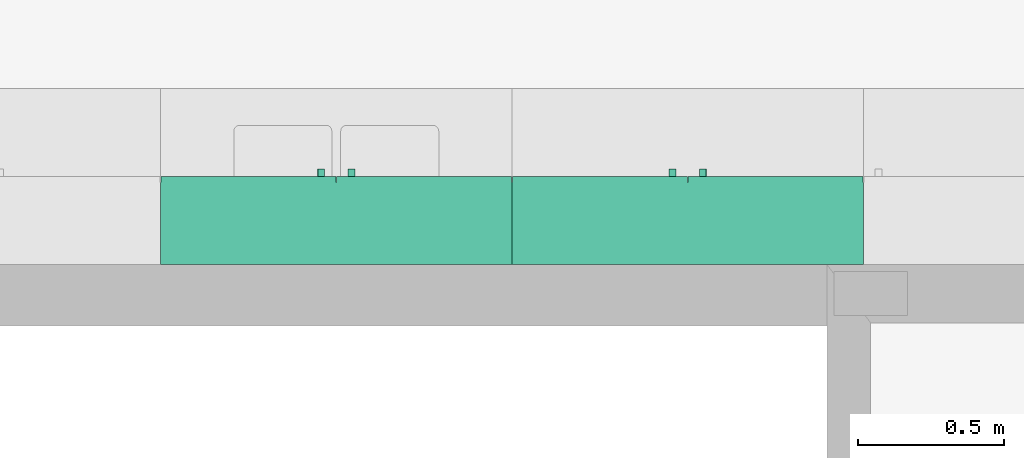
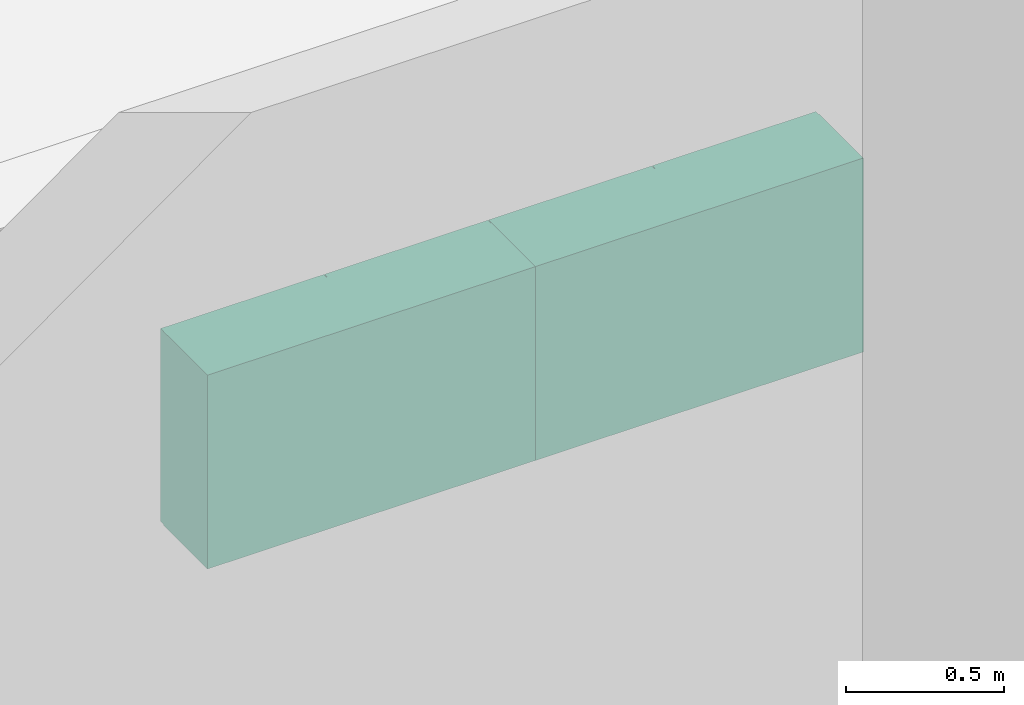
# One storey, part 14 of 26: 2 distribution elements.
"""IFC2X3 building model written with IfcOpenShell, lengths in millimetres."""

import ifcopenshell
import ifcopenshell.guid

model = None  # the IFC model being written
_history = None  # IfcOwnerHistory: only IFC2X3 demands one
_inside = {}  # id of a spatial element -> (the spatial element, [elements in it])
_under = {}  # id of a project, library or spatial element -> (it, [spatial elements below it])
_declared = {}  # id of a project -> (the project, [libraries it declares])
_typed = {}  # id of a type object -> (the type object, [elements of that type])
_made_of = {}  # id of a material, layer set ... -> (it, [elements and type objects made of it])


def new_model(schema):
    """Start an empty IFC model of exactly this schema.

    Asked for "IFC4X3", IfcOpenShell would pick the latest addendum, in which some entities
    have other attributes; the version numbers below select the first issue.
    IFC2X3 requires an IfcOwnerHistory on every rooted entity: one is made here for all.
    """
    global model, _history
    if schema == "IFC4X3":
        model = ifcopenshell.file(schema_version=(4, 3, 0, 0))
    else:
        model = ifcopenshell.file(schema=schema)
    _inside.clear()
    _under.clear()
    _declared.clear()
    _typed.clear()
    _made_of.clear()
    _history = None
    if model.schema == "IFC2X3":
        org = make("IfcOrganization", Name="unknown")
        user = make(
            "IfcPersonAndOrganization",
            ThePerson=make("IfcPerson", FamilyName="unknown"),
            TheOrganization=org,
        )
        app = make(
            "IfcApplication",
            ApplicationDeveloper=org,
            Version="unknown",
            ApplicationFullName="unknown",
            ApplicationIdentifier="unknown",
        )
        _history = make(
            "IfcOwnerHistory",
            OwningUser=user,
            OwningApplication=app,
            ChangeAction="ADDED",
            CreationDate=0,
        )
    return model


def make(cls, **values):
    """One entity of the class cls with the attributes given. An attribute that is None is left unset."""
    return model.create_entity(
        cls, **{name: value for name, value in values.items() if value is not None}
    )


def entity(cls, *values):
    """Any entity or typed value of the class cls, its attributes in the order of the schema. None: left unset."""
    e = model.create_entity(cls)
    for i, value in enumerate(values):
        if value is not None:
            e[i] = value
    return e


def rooted(cls, **values):
    """An entity with a GlobalId (a new one), such as an element, a storey or a relation."""
    return make(cls, GlobalId=ifcopenshell.guid.new(), OwnerHistory=_history, **values)


def si_unit(unit_type, name, prefix=None):
    """IfcSIUnit, for example si_unit("LENGTHUNIT", "METRE", prefix="MILLI")."""
    return make("IfcSIUnit", UnitType=unit_type, Prefix=prefix, Name=name)


def converted_unit(unit_type, name, factor, base, dimensions=None, offset=None):
    """IfcConversionBasedUnit, such as the inch: factor (a typed value) times the base unit."""
    return make(
        "IfcConversionBasedUnit"
        if offset is None
        else "IfcConversionBasedUnitWithOffset",
        ConversionOffset=offset,
        Dimensions=None
        if dimensions is None
        else entity("IfcDimensionalExponents", *dimensions),
        UnitType=unit_type,
        Name=name,
        ConversionFactor=make(
            "IfcMeasureWithUnit", ValueComponent=factor, UnitComponent=base
        ),
    )


def money_unit(currency):
    """IfcMonetaryUnit."""
    return make("IfcMonetaryUnit", Currency=currency)


def assignment(units):
    """IfcUnitAssignment: the units of a project."""
    return None if units is None else make("IfcUnitAssignment", Units=units)


def point(xyz):
    """IfcCartesianPoint."""
    return None if xyz is None else make("IfcCartesianPoint", Coordinates=xyz)


def direction(xyz):
    """IfcDirection."""
    return None if xyz is None else make("IfcDirection", DirectionRatios=xyz)


def frame(location, z_axis=None, x_axis=None):
    """IfcAxis2Placement3D, a coordinate frame: its origin and axes. An axis left out is left unset."""
    return make(
        "IfcAxis2Placement3D",
        Location=point(location),
        Axis=direction(z_axis),
        RefDirection=direction(x_axis),
    )


def origin_with_axes():
    """The frame at (0, 0, 0) with the z axis (0, 0, 1) and the x axis (1, 0, 0) written out."""
    return frame((0.0, 0.0, 0.0), z_axis=(0.0, 0.0, 1.0), x_axis=(1.0, 0.0, 0.0))


def place(relative_to, where):
    """IfcLocalPlacement: puts the frame where relative to a parent placement (None: the world)."""
    return make(
        "IfcLocalPlacement", PlacementRelTo=relative_to, RelativePlacement=where
    )


def context(
    kind, dimensions, precision=None, world=None, true_north=None, identifier=None
):
    """IfcGeometricRepresentationContext, for example the 3D "Model" context."""
    return make(
        "IfcGeometricRepresentationContext",
        ContextIdentifier=identifier,
        ContextType=kind,
        CoordinateSpaceDimension=dimensions,
        Precision=precision,
        WorldCoordinateSystem=world,
        TrueNorth=true_north,
    )


def subcontext(parent, identifier, kind, view, scale=None):
    """IfcGeometricRepresentationSubContext, for example "Body" below "Model"."""
    return make(
        "IfcGeometricRepresentationSubContext",
        ContextIdentifier=identifier,
        ContextType=kind,
        ParentContext=parent,
        TargetScale=scale,
        TargetView=view,
    )


def project(units=None, contexts=None):
    """IfcProject with its units and contexts."""
    return rooted(
        "IfcProject",
        Name="project",
        RepresentationContexts=contexts,
        UnitsInContext=assignment(units),
    )


def spatial(cls, under=None, at=None, **own):
    """A site, building, storey or space (cls), placed at a placement, below another one or the project."""
    s = rooted(cls, ObjectPlacement=at, **own)
    if under is not None:
        _under.setdefault(under.id(), (under, []))[1].append(s)
    return s


def faces_of(points, faces, orient=None, outer=None):
    """IfcFace entities. A face is a list of loops; a loop is a list of indices into points, from 0.

    orient and outer hold one flag for each loop. By default every Orientation is true, the
    first loop of a face is its IfcFaceOuterBound and the others are IfcFaceBound.
    """
    made = []
    for i, loops in enumerate(faces):
        bounds = []
        for j, loop in enumerate(loops):
            is_outer = j == 0 if outer is None else outer[i][j]
            bounds.append(
                make(
                    "IfcFaceOuterBound" if is_outer else "IfcFaceBound",
                    Bound=make("IfcPolyLoop", Polygon=[points[k] for k in loop]),
                    Orientation=True if orient is None else orient[i][j],
                )
            )
        made.append(make("IfcFace", Bounds=bounds))
    return made


def faceted_brep(points, faces, orient=None, outer=None, voids=None):
    """IfcFacetedBrep: a solid bounded by flat faces; with voids (closed shells), ...WithVoids."""
    shared = [point(p) for p in points]
    hull = make("IfcClosedShell", CfsFaces=faces_of(shared, faces, orient, outer))
    if voids is None:
        return make("IfcFacetedBrep", Outer=hull)
    return make(
        "IfcFacetedBrepWithVoids",
        Outer=hull,
        Voids=[
            make(cls, CfsFaces=faces_of(shared, fs, o, b)) for cls, fs, o, b in voids
        ],
    )


def shape(context_of_items, identifier, shape_type, items):
    """IfcShapeRepresentation: the items that make up one representation, for example the "Body"."""
    return make(
        "IfcShapeRepresentation",
        ContextOfItems=context_of_items,
        RepresentationIdentifier=identifier,
        RepresentationType=shape_type,
        Items=items,
    )


def source(mapping_origin, context_of_items, identifier, shape_type, items):
    """IfcRepresentationMap: a shape defined once, which mapped items show again and again."""
    return make(
        "IfcRepresentationMap",
        MappingOrigin=mapping_origin,
        MappedRepresentation=shape(context_of_items, identifier, shape_type, items),
    )


def transform(
    local_origin,
    x_axis=None,
    y_axis=None,
    z_axis=None,
    scale=None,
    scale2=None,
    scale3=None,
    uniform=True,
):
    """IfcCartesianTransformationOperator3D, or its non-uniform kind. x_axis, y_axis, z_axis: its Axis1, 2, 3."""
    if uniform:
        return make(
            "IfcCartesianTransformationOperator3D",
            Axis1=direction(x_axis),
            Axis2=direction(y_axis),
            LocalOrigin=point(local_origin),
            Scale=scale,
            Axis3=direction(z_axis),
        )
    return make(
        "IfcCartesianTransformationOperator3DnonUniform",
        Axis1=direction(x_axis),
        Axis2=direction(y_axis),
        LocalOrigin=point(local_origin),
        Scale=scale,
        Axis3=direction(z_axis),
        Scale2=scale2,
        Scale3=scale3,
    )


def mapped(mapping_source, mapping_target):
    """IfcMappedItem: shows the shape of a source again, moved by a transform."""
    return make(
        "IfcMappedItem", MappingSource=mapping_source, MappingTarget=mapping_target
    )


def material(Name=None, Category=None):
    """IfcMaterial."""
    return make("IfcMaterial", Name=Name, Category=Category)


def made_of(thing, what):
    """Note that an element or type object is made of a material, layer set ...; save() writes the relation."""
    if what is not None:
        _made_of.setdefault(what.id(), (what, []))[1].append(thing)
    return thing


def type_object(cls, material=None, **own):
    """A type object (cls), such as IfcWallType, which elements share."""
    return made_of(rooted(cls, **own), material)


def element(
    cls,
    number,
    at=None,
    inside=None,
    cuts=None,
    type_object=None,
    material=None,
    context=None,
    identifier="Body",
    shape_type=None,
    held_by="IfcProductDefinitionShape",
    body=None,
    shapes=None,
    **own,
):
    """One element of the class cls, such as IfcWall. Its Tag is "e" and its number.

    at: its placement. inside: the storey or other place that contains it. cuts: it is an
    opening in that element (IfcRelVoidsElement). A single representation is given by context,
    identifier, shape_type and body (its items); several are given by shapes. held_by: the class
    of the entity that holds the representations. save() writes the other relations.
    """
    e = rooted(cls, Tag="e%d" % number, ObjectPlacement=at, **own)
    if body is not None:
        shapes = [shape(context, identifier, shape_type, body)]
    if shapes is not None:
        e.Representation = make(held_by, Representations=shapes)
    if inside is not None:
        _inside.setdefault(inside.id(), (inside, []))[1].append(e)
    if cuts is not None:
        rooted(
            "IfcRelVoidsElement", RelatingBuildingElement=cuts, RelatedOpeningElement=e
        )
    if type_object is not None:
        _typed.setdefault(type_object.id(), (type_object, []))[1].append(e)
    return made_of(e, material)


def aggregate(whole, parts):
    """IfcRelAggregates: a whole, such as a stair, and the parts it consists of."""
    return rooted("IfcRelAggregates", RelatingObject=whole, RelatedObjects=parts)


def save(model, path):
    """Write the relations noted so far, then the file.

    IfcRelAggregates (storeys below a building ...), IfcRelContainedInSpatialStructure (elements
    in a storey), IfcRelDefinesByType, IfcRelAssociatesMaterial and IfcRelDeclares: one each for
    every whole, place, type object, material and project.
    """
    for whole, parts in _under.values():
        aggregate(whole, parts)
    for where, things in _inside.values():
        rooted(
            "IfcRelContainedInSpatialStructure",
            RelatedElements=things,
            RelatingStructure=where,
        )
    for kind, things in _typed.values():
        rooted("IfcRelDefinesByType", RelatedObjects=things, RelatingType=kind)
    for what, things in _made_of.values():
        rooted("IfcRelAssociatesMaterial", RelatedObjects=things, RelatingMaterial=what)
    for by, libraries in _declared.values():
        rooted("IfcRelDeclares", RelatingContext=by, RelatedDefinitions=libraries)
    model.write(path)


model = new_model("IFC2X3")

# Units and contexts
model_context = context("Model", 3, precision=1e-05, world=origin_with_axes(), true_north=direction((0.0, 1.0)))
body_context = subcontext(model_context, "Body", "Model", "MODEL_VIEW")
ifc_project = project(units=[si_unit("LENGTHUNIT", "METRE", prefix="MILLI"), si_unit("AREAUNIT", "SQUARE_METRE"), si_unit("VOLUMEUNIT", "CUBIC_METRE"), converted_unit("PLANEANGLEUNIT", "DEGREE", entity("IfcPlaneAngleMeasure", 0.0174532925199), si_unit("PLANEANGLEUNIT", "RADIAN"), dimensions=[0, 0, 0, 0, 0, 0, 0]), si_unit("SOLIDANGLEUNIT", "STERADIAN"), money_unit("USD"), converted_unit("TIMEUNIT", "Year", entity("IfcTimeMeasure", 31556926.0), si_unit("TIMEUNIT", "SECOND"), dimensions=[0, 0, 0, 0, 0, 0, 0]), si_unit("MASSUNIT", "GRAM"), si_unit("THERMODYNAMICTEMPERATUREUNIT", "DEGREE_CELSIUS"), si_unit("LUMINOUSINTENSITYUNIT", "LUMEN")], contexts=[model_context])

# Site, building, storey
site_placement = place(None, origin_with_axes())
site = spatial("IfcSite", under=ifc_project, at=site_placement, Name="Grove Residential", CompositionType="ELEMENT")
building_placement = place(site_placement, origin_with_axes())
building = spatial("IfcBuilding", under=site, at=building_placement, Name="Building", CompositionType="ELEMENT")
storey_placement = place(building_placement, origin_with_axes())
storey = spatial("IfcBuildingStorey", under=building, at=storey_placement, Name="Ground Floor", CompositionType="ELEMENT", Elevation=0.0)

# Distribution elements
ifc_material = material(Name="Background")
distribution_element_type = type_object("IfcDistributionElementType", Name="Cabinet Wall Double Door 21")
shared_shape = source(origin_with_axes(), body_context, "Body", "Brep", [
    faceted_brep([(0.0, 20.0, 2230.0), (20.0, 20.0, 2230.0), (20.0, 20.0, 2250.0), (0.0, 20.0, 2250.0), (0.0, 300.0, 2230.0), (20.0, 300.0, 2230.0), (1180.0, 300.0, 2230.0), (1200.0, 300.0, 2230.0), (1200.0, 20.0, 2230.0), (1180.0, 20.0, 2230.0), (1180.0, 20.0, 2250.0), (1200.0, 20.0, 2250.0), (1200.0, 300.0, 2250.0), (1180.0, 300.0, 2250.0), (20.0, 300.0, 2250.0), (0.0, 300.0, 2250.0)], [[[0, 1, 2, 3]], [[0, 4, 5, 6, 7, 8, 9, 1]], [[1, 9, 10, 2]], [[3, 2, 10, 11, 12, 13, 14, 15]], [[4, 0, 3, 15]], [[5, 4, 15, 14]], [[6, 5, 14, 13]], [[7, 6, 13, 12]], [[8, 7, 12, 11]], [[9, 8, 11, 10]]]),
    faceted_brep([(0.0, 20.0, 1500.0), (20.0, 20.0, 1500.0), (20.0, 20.0, 1520.0), (0.0, 20.0, 1520.0), (0.0, 300.0, 1500.0), (20.0, 300.0, 1500.0), (1180.0, 300.0, 1500.0), (1200.0, 300.0, 1500.0), (1200.0, 20.0, 1500.0), (1180.0, 20.0, 1500.0), (1180.0, 20.0, 1520.0), (1200.0, 20.0, 1520.0), (1200.0, 300.0, 1520.0), (1180.0, 300.0, 1520.0), (20.0, 300.0, 1520.0), (0.0, 300.0, 1520.0)], [[[0, 1, 2, 3]], [[0, 4, 5, 6, 7, 8, 9, 1]], [[1, 9, 10, 2]], [[3, 2, 10, 11, 12, 13, 14, 15]], [[4, 0, 3, 15]], [[5, 4, 15, 14]], [[6, 5, 14, 13]], [[7, 6, 13, 12]], [[8, 7, 12, 11]], [[9, 8, 11, 10]]]),
    faceted_brep([(0.0, 20.0, 1520.0), (20.0, 20.0, 1520.0), (20.0, 20.0, 2230.0), (0.0, 20.0, 2230.0), (0.0, 300.0, 1520.0), (1200.0, 300.0, 1520.0), (1200.0, 20.0, 1520.0), (1180.0, 20.0, 1520.0), (1180.0, 280.0, 1520.0), (20.0, 280.0, 1520.0), (20.0, 280.0, 2230.0), (1180.0, 280.0, 2230.0), (1180.0, 20.0, 2230.0), (1200.0, 20.0, 2230.0), (1200.0, 300.0, 2230.0), (0.0, 300.0, 2230.0)], [[[0, 1, 2, 3]], [[0, 4, 5, 6, 7, 8, 9, 1]], [[1, 9, 10, 2]], [[3, 2, 10, 11, 12, 13, 14, 15]], [[4, 0, 3, 15]], [[5, 4, 15, 14]], [[6, 5, 14, 13]], [[7, 6, 13, 12]], [[8, 7, 12, 11]], [[9, 8, 11, 10]]]),
    faceted_brep([(1180.0, 20.0, 1730.0), (1180.0, 280.0, 1730.0), (1180.0, 280.0, 1750.0), (1180.0, 20.0, 1750.0), (20.0, 20.0, 1730.0), (20.0, 280.0, 1730.0), (20.0, 280.0, 1750.0), (20.0, 20.0, 1750.0)], [[[0, 1, 2, 3]], [[0, 4, 5, 1]], [[1, 5, 6, 2]], [[3, 2, 6, 7]], [[4, 0, 3, 7]], [[5, 4, 7, 6]]]),
    faceted_brep([(1180.0, 20.0, 1980.0), (1180.0, 280.0, 1980.0), (1180.0, 280.0, 2000.0), (1180.0, 20.0, 2000.0), (20.0, 20.0, 1980.0), (20.0, 280.0, 1980.0), (20.0, 280.0, 2000.0), (20.0, 20.0, 2000.0)], [[[0, 1, 2, 3]], [[0, 4, 5, 1]], [[1, 5, 6, 2]], [[3, 2, 6, 7]], [[4, 0, 3, 7]], [[5, 4, 7, 6]]]),
    faceted_brep([(1.5, 20.0, 1501.5), (598.5, 20.0, 1501.5), (598.5, 0.0, 1501.5), (1.5, 0.0, 1501.5), (1.5, 20.0, 2248.5), (598.5, 20.0, 2248.5), (598.5, 0.0, 2248.5), (1.5, 0.0, 2248.5)], [[[0, 1, 2, 3]], [[0, 4, 5, 1]], [[1, 5, 6, 2]], [[3, 2, 6, 7]], [[4, 0, 3, 7]], [[5, 4, 7, 6]]]),
    faceted_brep([(560.091109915, 0.0, 1548.39417146), (558.892304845, 0.0, 1545.5), (556.985281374, 0.0, 1543.01471863), (554.5, 0.0, 1541.10769515), (551.605828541, 0.0, 1539.90889008), (548.5, 0.0, 1539.5), (545.394171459, 0.0, 1539.90889008), (542.5, 0.0, 1541.10769515), (540.014718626, 0.0, 1543.01471863), (538.107695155, 0.0, 1545.5), (536.908890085, 0.0, 1548.39417146), (536.5, 0.0, 1551.5), (536.908890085, 0.0, 1554.60582854), (538.107695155, 0.0, 1557.5), (540.014718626, 0.0, 1559.98528137), (542.5, 0.0, 1561.89230485), (545.394171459, 0.0, 1563.09110992), (548.5, 0.0, 1563.5), (551.605828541, 0.0, 1563.09110992), (554.5, 0.0, 1561.89230485), (556.985281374, 0.0, 1559.98528137), (558.892304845, 0.0, 1557.5), (560.091109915, 0.0, 1554.60582854), (560.5, 0.0, 1551.5), (560.091109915, -25.0, 1548.39417146), (558.892304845, -25.0, 1545.5), (556.985281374, -25.0, 1543.01471863), (554.5, -25.0, 1541.10769515), (551.605828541, -25.0, 1539.90889008), (548.5, -25.0, 1539.5), (545.394171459, -25.0, 1539.90889008), (542.5, -25.0, 1541.10769515), (540.014718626, -25.0, 1543.01471863), (538.107695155, -25.0, 1545.5), (536.908890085, -25.0, 1548.39417146), (536.5, -25.0, 1551.5), (536.908890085, -25.0, 1554.60582854), (538.107695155, -25.0, 1557.5), (540.014718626, -25.0, 1559.98528137), (542.5, -25.0, 1561.89230485), (545.394171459, -25.0, 1563.09110992), (548.5, -25.0, 1563.5), (551.605828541, -25.0, 1563.09110992), (554.5, -25.0, 1561.89230485), (556.985281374, -25.0, 1559.98528137), (558.892304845, -25.0, 1557.5), (560.091109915, -25.0, 1554.60582854), (560.5, -25.0, 1551.5)], [[[0, 1, 2, 3, 4, 5, 6, 7, 8, 9, 10, 11, 12, 13, 14, 15, 16, 17, 18, 19, 20, 21, 22, 23]], [[1, 0, 24, 25]], [[2, 1, 25, 26]], [[3, 2, 26, 27]], [[4, 3, 27, 28]], [[5, 4, 28, 29]], [[6, 5, 29, 30]], [[7, 6, 30, 31]], [[8, 7, 31, 32]], [[9, 8, 32, 33]], [[10, 9, 33, 34]], [[11, 10, 34, 35]], [[12, 11, 35, 36]], [[13, 12, 36, 37]], [[14, 13, 37, 38]], [[15, 14, 38, 39]], [[16, 15, 39, 40]], [[17, 16, 40, 41]], [[18, 17, 41, 42]], [[19, 18, 42, 43]], [[20, 19, 43, 44]], [[21, 20, 44, 45]], [[22, 21, 45, 46]], [[23, 22, 46, 47]], [[0, 23, 47, 24]], [[24, 47, 46, 45, 44, 43, 42, 41, 40, 39, 38, 37, 36, 35, 34, 33, 32, 31, 30, 29, 28, 27, 26, 25]]]),
    faceted_brep([(1198.5, 20.0, 1501.5), (1198.5, 0.0, 1501.5), (601.5, 0.0, 1501.5), (601.5, 20.0, 1501.5), (1198.5, 20.0, 2248.5), (1198.5, 0.0, 2248.5), (601.5, 0.0, 2248.5), (601.5, 20.0, 2248.5)], [[[0, 1, 2, 3]], [[4, 5, 1, 0]], [[1, 5, 6, 2]], [[3, 2, 6, 7]], [[0, 3, 7, 4]], [[7, 6, 5, 4]]]),
    faceted_brep([(639.908890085, 0.0, 1548.39417146), (639.5, 0.0, 1551.5), (639.908890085, 0.0, 1554.60582854), (641.107695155, 0.0, 1557.5), (643.014718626, 0.0, 1559.98528137), (645.5, 0.0, 1561.89230485), (648.394171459, 0.0, 1563.09110992), (651.5, 0.0, 1563.5), (654.605828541, 0.0, 1563.09110992), (657.5, 0.0, 1561.89230485), (659.985281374, 0.0, 1559.98528137), (661.892304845, 0.0, 1557.5), (663.091109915, 0.0, 1554.60582854), (663.5, 0.0, 1551.5), (663.091109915, 0.0, 1548.39417146), (661.892304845, 0.0, 1545.5), (659.985281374, 0.0, 1543.01471863), (657.5, 0.0, 1541.10769515), (654.605828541, 0.0, 1539.90889008), (651.5, 0.0, 1539.5), (648.394171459, 0.0, 1539.90889008), (645.5, 0.0, 1541.10769515), (643.014718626, 0.0, 1543.01471863), (641.107695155, 0.0, 1545.5), (639.908890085, -25.0, 1548.39417146), (639.5, -25.0, 1551.5), (639.908890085, -25.0, 1554.60582854), (641.107695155, -25.0, 1557.5), (643.014718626, -25.0, 1559.98528137), (645.5, -25.0, 1561.89230485), (648.394171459, -25.0, 1563.09110992), (651.5, -25.0, 1563.5), (654.605828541, -25.0, 1563.09110992), (657.5, -25.0, 1561.89230485), (659.985281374, -25.0, 1559.98528137), (661.892304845, -25.0, 1557.5), (663.091109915, -25.0, 1554.60582854), (663.5, -25.0, 1551.5), (663.091109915, -25.0, 1548.39417146), (661.892304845, -25.0, 1545.5), (659.985281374, -25.0, 1543.01471863), (657.5, -25.0, 1541.10769515), (654.605828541, -25.0, 1539.90889008), (651.5, -25.0, 1539.5), (648.394171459, -25.0, 1539.90889008), (645.5, -25.0, 1541.10769515), (643.014718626, -25.0, 1543.01471863), (641.107695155, -25.0, 1545.5)], [[[0, 1, 2, 3, 4, 5, 6, 7, 8, 9, 10, 11, 12, 13, 14, 15, 16, 17, 18, 19, 20, 21, 22, 23]], [[0, 24, 25, 1]], [[1, 25, 26, 2]], [[2, 26, 27, 3]], [[3, 27, 28, 4]], [[4, 28, 29, 5]], [[5, 29, 30, 6]], [[6, 30, 31, 7]], [[7, 31, 32, 8]], [[8, 32, 33, 9]], [[9, 33, 34, 10]], [[10, 34, 35, 11]], [[11, 35, 36, 12]], [[12, 36, 37, 13]], [[13, 37, 38, 14]], [[14, 38, 39, 15]], [[15, 39, 40, 16]], [[16, 40, 41, 17]], [[17, 41, 42, 18]], [[18, 42, 43, 19]], [[19, 43, 44, 20]], [[20, 44, 45, 21]], [[21, 45, 46, 22]], [[22, 46, 47, 23]], [[23, 47, 24, 0]], [[24, 47, 46, 45, 44, 43, 42, 41, 40, 39, 38, 37, 36, 35, 34, 33, 32, 31, 30, 29, 28, 27, 26, 25]]]),
])
for number, where, z_axis, x_axis, name in (
    (1, (7200.0, 7360.00018153, 0.0), (0.0, 0.0, 1.0), (-1.0, 0.0, 0.0), "FU - 001"),
    (2, (6000.0, 7360.00018153, 0.0), (0.0, 0.0, 1.0), (-1.0, 0.0, 0.0), "FU - 001"),
):
    element("IfcDistributionElement", number, at=place(storey_placement, frame(where, z_axis=z_axis, x_axis=x_axis)), inside=storey, type_object=distribution_element_type, material=ifc_material, Name=name, context=body_context, shape_type="MappedRepresentation", body=[
        mapped(shared_shape, transform((0.0, 0.0, 0.0))),
    ])

save(model, "model.ifc")
